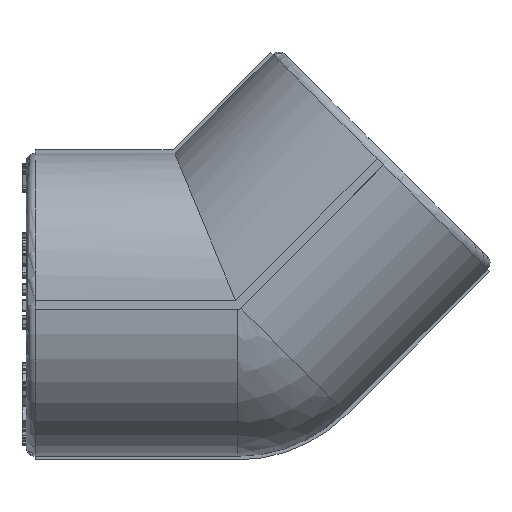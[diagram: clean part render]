
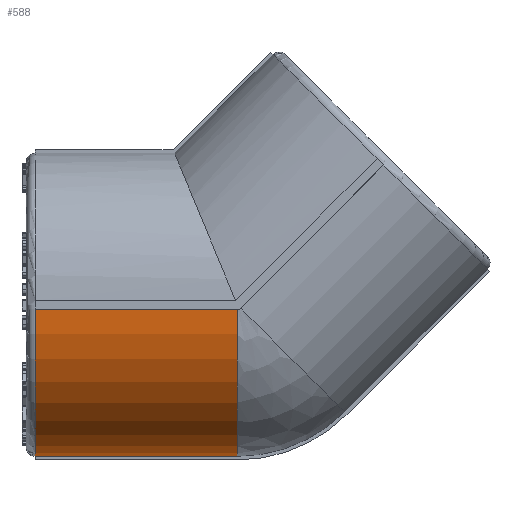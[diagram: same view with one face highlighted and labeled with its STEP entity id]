
A CAD part, left-side view. The second image highlights one B-rep face of the part: STEP entity #588.
In plain terms, the highlighted cylindrical face has radius 17.25 mm (diameter 34.5 mm), a partial arc.
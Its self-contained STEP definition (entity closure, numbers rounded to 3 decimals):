
#588=ADVANCED_FACE('',(#4119),#4121,.T.);
#4119=FACE_BOUND('',#4120,.T.);
#4120=EDGE_LOOP('',(#8411,#8412,#8413,#8414));
#4121=CYLINDRICAL_SURFACE('',#4122,17.25);
#4122=AXIS2_PLACEMENT_3D('',#4123,#4124,#4125);
#4123=CARTESIAN_POINT('',(0.,0.,0.));
#4124=DIRECTION('',(0.,1.,0.));
#4125=DIRECTION('',(-1.,0.,0.));
#8411=ORIENTED_EDGE('',*,*,#10115,.F.);
#8412=ORIENTED_EDGE('',*,*,#10116,.F.);
#8413=ORIENTED_EDGE('',*,*,#10117,.F.);
#8414=ORIENTED_EDGE('',*,*,#10092,.F.);
#10092=EDGE_CURVE('',#12693,#12695,#12696,.T.);
#10115=EDGE_CURVE('',#12734,#12693,#12735,.T.);
#10116=EDGE_CURVE('',#12736,#12734,#12737,.F.);
#10117=EDGE_CURVE('',#12695,#12736,#12738,.F.);
#12693=VERTEX_POINT('',#18357);
#12695=VERTEX_POINT('',#18362);
#12696=CIRCLE('',#18363,17.25);
#12734=VERTEX_POINT('',#18456);
#12735=LINE('',#18457,#18458);
#12736=VERTEX_POINT('',#18460);
#12737=CIRCLE('',#18461,17.25);
#12738=LINE('',#18465,#18466);
#18357=CARTESIAN_POINT('',(-0.5,23.,-17.243));
#18362=CARTESIAN_POINT('',(-17.243,23.,-0.5));
#18363=AXIS2_PLACEMENT_3D('',#18364,#18365,#18366);
#18364=CARTESIAN_POINT('',(0.,23.,0.));
#18365=DIRECTION('',(0.,1.,0.));
#18366=DIRECTION('',(-0.029,0.,-1.));
#18456=CARTESIAN_POINT('',(-0.5,0.,-17.243));
#18457=CARTESIAN_POINT('',(-0.5,0.,-17.243));
#18458=VECTOR('',#18459,1.);
#18459=DIRECTION('',(0.,1.,0.));
#18460=CARTESIAN_POINT('',(-17.243,0.,-0.5));
#18461=AXIS2_PLACEMENT_3D('',#18462,#18463,#18464);
#18462=CARTESIAN_POINT('',(0.,0.,0.));
#18463=DIRECTION('',(0.,1.,0.));
#18464=DIRECTION('',(-0.029,0.,-1.));
#18465=CARTESIAN_POINT('',(-17.243,0.,-0.5));
#18466=VECTOR('',#18467,1.);
#18467=DIRECTION('',(0.,1.,0.));
